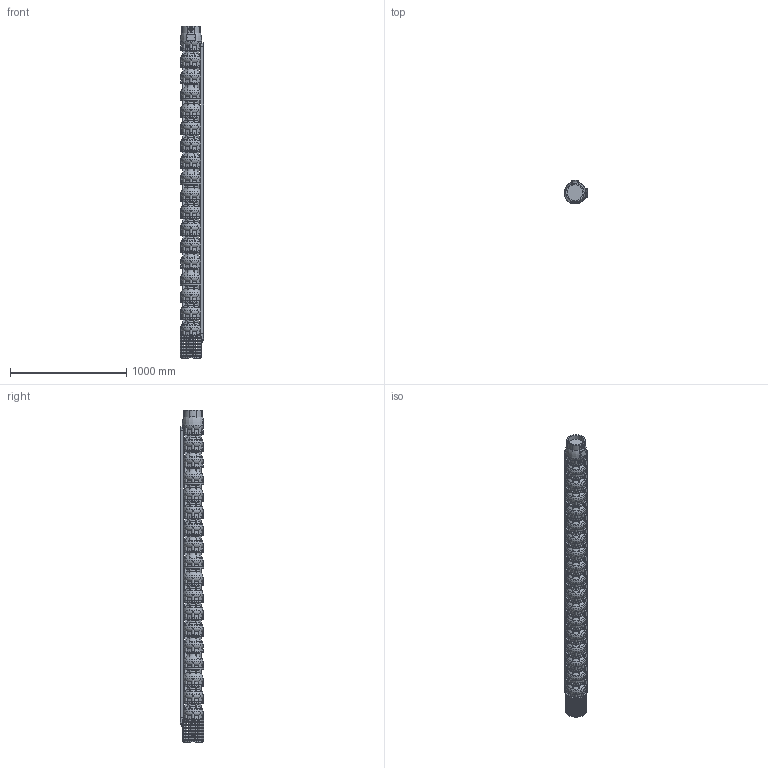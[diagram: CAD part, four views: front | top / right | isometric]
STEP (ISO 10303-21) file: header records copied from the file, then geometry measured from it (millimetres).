
FILE_DESCRIPTION(/* description */ ('Unknown'),/* implementation_level */ '2;1');
FILE_NAME(/* name */ 'VSI134-17_WR_M8-50_SLE',/* time_stamp */ '2023-09-14T14:55:05+02:00',/* author */ ('Unknown'),/* organization */ ('Unknown'),/* preprocessor_version */ 'ST-DEVELOPER v18.102',/* originating_system */ 'Solid Edge',/* authorisation */ 'Unknown');
FILE_SCHEMA (('FEATURE_BASED_PROCESS_PLANNING','AUTOMOTIVE_DESIGN {1 0 10303 214 3 1 1}'));
Products named in the file (11): VSI134-17_WR_M8-50_SLE; VSI134_testata; VSI134_diffusore; VSI134_supporto_8×8; VSI134_terminale_top_copricavo_basso; VSI134_terminale_bottom_copricavo_basso; LOW 134-17; M5X8_UNI7687; VSI134_filtro_A; VSI134_filtro_B; VSI134_giunto_8×8
Assembly tree (40 placements, depth 2):
  VSI134-17_WR_M8-50_SLE
    VSI134_testata
    VSI134_diffusore  x17
    VSI134_supporto_8×8
    VSI134_terminale_top_copricavo_basso  x2
    VSI134_terminale_bottom_copricavo_basso  x2
    LOW 134-17  x2
    M5X8_UNI7687  x12
    VSI134_filtro_A
    VSI134_filtro_B
    VSI134_giunto_8×8
Bounding box: 201.57 x 202.09 x 2862 mm (x, y, z)
Volume: 53390280.9 mm3; surface area: 4351473.7 mm2
Topology: 79 solids, 81 shells, 5417 faces, 15285 edges, 10207 vertices
Faces by surface type: plane 3813, torus 787, cylinder 700, cone 72, bspline 31, sphere 14
Full cylindrical faces by diameter (mm): 2.4 x2, 3 x2, 4.2 x16, 5 x12, 5.5 x8, 26 x1, 44 x1, 69 x1, 74 x1, 98 x1, 135.472 x1, 157 x1, 182 x18
Entity records: 85633 total; most frequent: CARTESIAN_POINT 18373, ORIENTED_EDGE 14056, DIRECTION 13510, EDGE_CURVE 7028, VERTEX_POINT 4730, AXIS2_PLACEMENT_3D 4606, LINE 4298, VECTOR 4298
